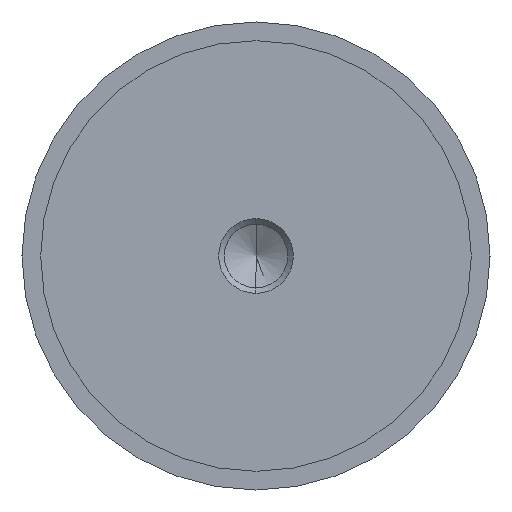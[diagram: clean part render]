
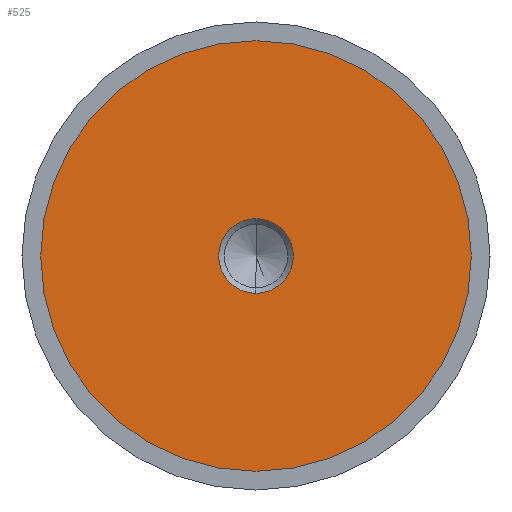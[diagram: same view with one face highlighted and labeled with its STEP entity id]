
A CAD part, left-side view. The second image highlights one B-rep face of the part: STEP entity #525.
In plain terms, the highlighted planar face has unit normal (-1, 0, 0).
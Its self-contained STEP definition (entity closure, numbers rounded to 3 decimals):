
#3 = EDGE_LOOP ( 'NONE', ( #127, #543 ) ) ;
#25 = EDGE_CURVE ( 'NONE', #320, #114, #83, .T. ) ;
#32 = DIRECTION ( 'NONE',  ( -1., 0., 0. ) ) ;
#52 = AXIS2_PLACEMENT_3D ( 'NONE', #62, #357, #115 ) ;
#62 = CARTESIAN_POINT ( 'NONE',  ( -27.49, 0., 0. ) ) ;
#83 = CIRCLE ( 'NONE', #521, 5.99 ) ;
#95 = CIRCLE ( 'NONE', #424, 34.5 ) ;
#114 = VERTEX_POINT ( 'NONE', #647 ) ;
#115 = DIRECTION ( 'NONE',  ( 0., 0., 1. ) ) ;
#118 = DIRECTION ( 'NONE',  ( 1., 0., 0. ) ) ;
#127 = ORIENTED_EDGE ( 'NONE', *, *, #527, .T. ) ;
#159 = DIRECTION ( 'NONE',  ( 1., 0., 0. ) ) ;
#178 = PLANE ( 'NONE',  #605 ) ;
#232 = DIRECTION ( 'NONE',  ( 0., 0., -1. ) ) ;
#234 = VERTEX_POINT ( 'NONE', #683 ) ;
#267 = CARTESIAN_POINT ( 'NONE',  ( -27.49, 0., 5.99 ) ) ;
#268 = CARTESIAN_POINT ( 'NONE',  ( -27.49, 0., 0. ) ) ;
#284 = CARTESIAN_POINT ( 'NONE',  ( -27.49, 0., 0. ) ) ;
#297 = FACE_BOUND ( 'NONE', #742, .T. ) ;
#320 = VERTEX_POINT ( 'NONE', #267 ) ;
#357 = DIRECTION ( 'NONE',  ( -1., 0., 0. ) ) ;
#360 = ORIENTED_EDGE ( 'NONE', *, *, #25, .T. ) ;
#362 = CARTESIAN_POINT ( 'NONE',  ( -27.49, 34.5, 0. ) ) ;
#390 = EDGE_CURVE ( 'NONE', #114, #320, #614, .T. ) ;
#410 = CIRCLE ( 'NONE', #52, 34.5 ) ;
#424 = AXIS2_PLACEMENT_3D ( 'NONE', #578, #32, #513 ) ;
#463 = EDGE_CURVE ( 'NONE', #472, #234, #95, .T. ) ;
#472 = VERTEX_POINT ( 'NONE', #653 ) ;
#485 = FACE_OUTER_BOUND ( 'NONE', #3, .T. ) ;
#493 = DIRECTION ( 'NONE',  ( 1., 0., 0. ) ) ;
#513 = DIRECTION ( 'NONE',  ( 0., 0., 1. ) ) ;
#521 = AXIS2_PLACEMENT_3D ( 'NONE', #268, #493, #623 ) ;
#525 = ADVANCED_FACE ( 'NONE', ( #297, #485 ), #178, .F. ) ;
#527 = EDGE_CURVE ( 'NONE', #234, #472, #410, .T. ) ;
#543 = ORIENTED_EDGE ( 'NONE', *, *, #463, .T. ) ;
#578 = CARTESIAN_POINT ( 'NONE',  ( -27.49, 0., 0. ) ) ;
#605 = AXIS2_PLACEMENT_3D ( 'NONE', #362, #118, #711 ) ;
#611 = ORIENTED_EDGE ( 'NONE', *, *, #390, .T. ) ;
#614 = CIRCLE ( 'NONE', #650, 5.99 ) ;
#623 = DIRECTION ( 'NONE',  ( 0., 0., -1. ) ) ;
#647 = CARTESIAN_POINT ( 'NONE',  ( -27.49, 0., -5.99 ) ) ;
#650 = AXIS2_PLACEMENT_3D ( 'NONE', #284, #159, #232 ) ;
#653 = CARTESIAN_POINT ( 'NONE',  ( -27.49, 0., -34.5 ) ) ;
#683 = CARTESIAN_POINT ( 'NONE',  ( -27.49, 0., 34.5 ) ) ;
#711 = DIRECTION ( 'NONE',  ( 0., 0., -1. ) ) ;
#742 = EDGE_LOOP ( 'NONE', ( #360, #611 ) ) ;
